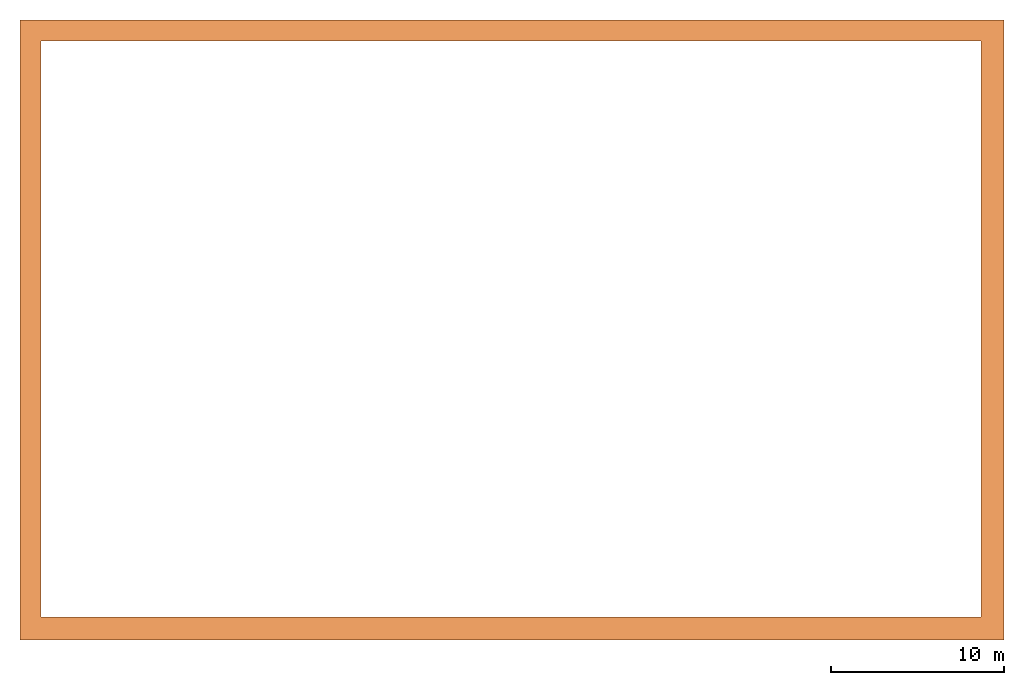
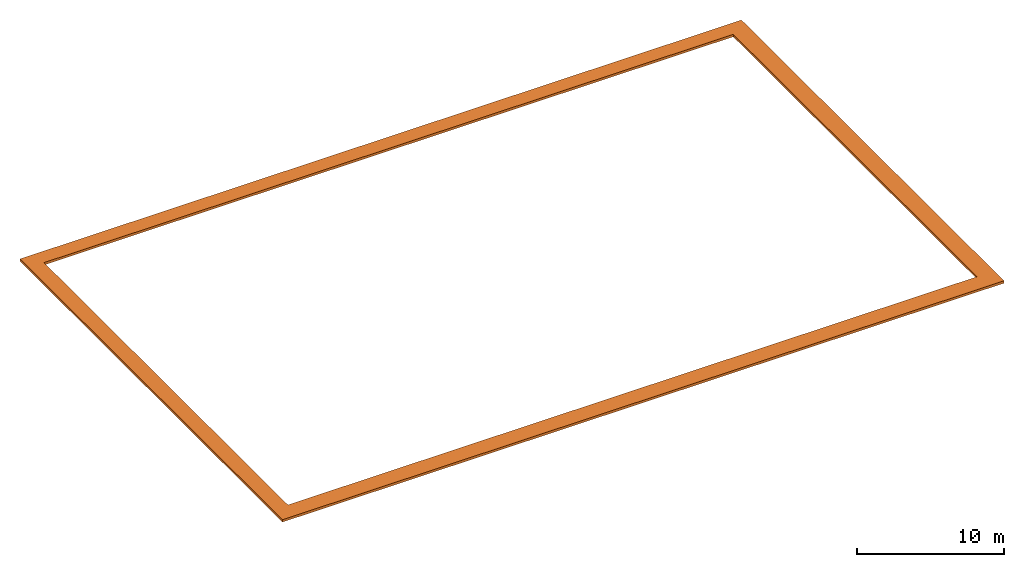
# Not in any storey: 1 proxy.
"""IFC4 model written with IfcOpenShell, lengths in millimetres."""

import ifcopenshell
import ifcopenshell.guid

model = None  # the IFC model being written
_history = None  # IfcOwnerHistory: only IFC2X3 demands one
_inside = {}  # id of a spatial element -> (the spatial element, [elements in it])
_under = {}  # id of a project, library or spatial element -> (it, [spatial elements below it])
_declared = {}  # id of a project -> (the project, [libraries it declares])
_typed = {}  # id of a type object -> (the type object, [elements of that type])
_made_of = {}  # id of a material, layer set ... -> (it, [elements and type objects made of it])


def new_model(schema):
    """Start an empty IFC model of exactly this schema.

    Asked for "IFC4X3", IfcOpenShell would pick the latest addendum, in which some entities
    have other attributes; the version numbers below select the first issue.
    IFC2X3 requires an IfcOwnerHistory on every rooted entity: one is made here for all.
    """
    global model, _history
    if schema == "IFC4X3":
        model = ifcopenshell.file(schema_version=(4, 3, 0, 0))
    else:
        model = ifcopenshell.file(schema=schema)
    _inside.clear()
    _under.clear()
    _declared.clear()
    _typed.clear()
    _made_of.clear()
    _history = None
    if model.schema == "IFC2X3":
        org = make("IfcOrganization", Name="unknown")
        user = make(
            "IfcPersonAndOrganization",
            ThePerson=make("IfcPerson", FamilyName="unknown"),
            TheOrganization=org,
        )
        app = make(
            "IfcApplication",
            ApplicationDeveloper=org,
            Version="unknown",
            ApplicationFullName="unknown",
            ApplicationIdentifier="unknown",
        )
        _history = make(
            "IfcOwnerHistory",
            OwningUser=user,
            OwningApplication=app,
            ChangeAction="ADDED",
            CreationDate=0,
        )
    return model


def make(cls, **values):
    """One entity of the class cls with the attributes given. An attribute that is None is left unset."""
    return model.create_entity(
        cls, **{name: value for name, value in values.items() if value is not None}
    )


def rooted(cls, **values):
    """An entity with a GlobalId (a new one), such as an element, a storey or a relation."""
    return make(cls, GlobalId=ifcopenshell.guid.new(), OwnerHistory=_history, **values)


def si_unit(unit_type, name, prefix=None):
    """IfcSIUnit, for example si_unit("LENGTHUNIT", "METRE", prefix="MILLI")."""
    return make("IfcSIUnit", UnitType=unit_type, Prefix=prefix, Name=name)


def assignment(units):
    """IfcUnitAssignment: the units of a project."""
    return None if units is None else make("IfcUnitAssignment", Units=units)


def point(xyz):
    """IfcCartesianPoint."""
    return None if xyz is None else make("IfcCartesianPoint", Coordinates=xyz)


def direction(xyz):
    """IfcDirection."""
    return None if xyz is None else make("IfcDirection", DirectionRatios=xyz)


def frame(location, z_axis=None, x_axis=None):
    """IfcAxis2Placement3D, a coordinate frame: its origin and axes. An axis left out is left unset."""
    return make(
        "IfcAxis2Placement3D",
        Location=point(location),
        Axis=direction(z_axis),
        RefDirection=direction(x_axis),
    )


def origin():
    """The frame at (0, 0, 0) with its axes left unset."""
    return frame((0.0, 0.0, 0.0))


def place(relative_to, where):
    """IfcLocalPlacement: puts the frame where relative to a parent placement (None: the world)."""
    return make(
        "IfcLocalPlacement", PlacementRelTo=relative_to, RelativePlacement=where
    )


def context(
    kind, dimensions, precision=None, world=None, true_north=None, identifier=None
):
    """IfcGeometricRepresentationContext, for example the 3D "Model" context."""
    return make(
        "IfcGeometricRepresentationContext",
        ContextIdentifier=identifier,
        ContextType=kind,
        CoordinateSpaceDimension=dimensions,
        Precision=precision,
        WorldCoordinateSystem=world,
        TrueNorth=true_north,
    )


def project(units=None, contexts=None):
    """IfcProject with its units and contexts."""
    return rooted(
        "IfcProject",
        Name="project",
        RepresentationContexts=contexts,
        UnitsInContext=assignment(units),
    )


def spatial(cls, under=None, at=None, **own):
    """A site, building, storey or space (cls), placed at a placement, below another one or the project."""
    s = rooted(cls, ObjectPlacement=at, **own)
    if under is not None:
        _under.setdefault(under.id(), (under, []))[1].append(s)
    return s


def point_list(points):
    """IfcCartesianPointList2D or 3D."""
    cls = (
        "IfcCartesianPointList2D" if len(points[0]) == 2 else "IfcCartesianPointList3D"
    )
    return make(cls, CoordList=points)


def triangles(points, corners, closed=None, point_numbers=None):
    """IfcTriangulatedFaceSet: each triangle names its three corners, points numbered from 1."""
    return make(
        "IfcTriangulatedFaceSet",
        Coordinates=point_list(points),
        Closed=closed,
        CoordIndex=corners,
        PnIndex=point_numbers,
    )


def shape(context_of_items, identifier, shape_type, items):
    """IfcShapeRepresentation: the items that make up one representation, for example the "Body"."""
    return make(
        "IfcShapeRepresentation",
        ContextOfItems=context_of_items,
        RepresentationIdentifier=identifier,
        RepresentationType=shape_type,
        Items=items,
    )


def made_of(thing, what):
    """Note that an element or type object is made of a material, layer set ...; save() writes the relation."""
    if what is not None:
        _made_of.setdefault(what.id(), (what, []))[1].append(thing)
    return thing


def element(
    cls,
    number,
    at=None,
    inside=None,
    cuts=None,
    type_object=None,
    material=None,
    context=None,
    identifier="Body",
    shape_type=None,
    held_by="IfcProductDefinitionShape",
    body=None,
    shapes=None,
    **own,
):
    """One element of the class cls, such as IfcWall. Its Tag is "e" and its number.

    at: its placement. inside: the storey or other place that contains it. cuts: it is an
    opening in that element (IfcRelVoidsElement). A single representation is given by context,
    identifier, shape_type and body (its items); several are given by shapes. held_by: the class
    of the entity that holds the representations. save() writes the other relations.
    """
    e = rooted(cls, Tag="e%d" % number, ObjectPlacement=at, **own)
    if body is not None:
        shapes = [shape(context, identifier, shape_type, body)]
    if shapes is not None:
        e.Representation = make(held_by, Representations=shapes)
    if inside is not None:
        _inside.setdefault(inside.id(), (inside, []))[1].append(e)
    if cuts is not None:
        rooted(
            "IfcRelVoidsElement", RelatingBuildingElement=cuts, RelatedOpeningElement=e
        )
    if type_object is not None:
        _typed.setdefault(type_object.id(), (type_object, []))[1].append(e)
    return made_of(e, material)


def aggregate(whole, parts):
    """IfcRelAggregates: a whole, such as a stair, and the parts it consists of."""
    return rooted("IfcRelAggregates", RelatingObject=whole, RelatedObjects=parts)


def save(model, path):
    """Write the relations noted so far, then the file.

    IfcRelAggregates (storeys below a building ...), IfcRelContainedInSpatialStructure (elements
    in a storey), IfcRelDefinesByType, IfcRelAssociatesMaterial and IfcRelDeclares: one each for
    every whole, place, type object, material and project.
    """
    for whole, parts in _under.values():
        aggregate(whole, parts)
    for where, things in _inside.values():
        rooted(
            "IfcRelContainedInSpatialStructure",
            RelatedElements=things,
            RelatingStructure=where,
        )
    for kind, things in _typed.values():
        rooted("IfcRelDefinesByType", RelatedObjects=things, RelatingType=kind)
    for what, things in _made_of.values():
        rooted("IfcRelAssociatesMaterial", RelatedObjects=things, RelatingMaterial=what)
    for by, libraries in _declared.values():
        rooted("IfcRelDeclares", RelatingContext=by, RelatedDefinitions=libraries)
    model.write(path)


model = new_model("IFC4")

# Units and contexts
model_context = context("Model", 3, precision=0.001, world=origin())
ifc_project = project(units=[si_unit("LENGTHUNIT", "METRE", prefix="MILLI"), si_unit("AREAUNIT", "SQUARE_METRE"), si_unit("VOLUMEUNIT", "CUBIC_METRE")], contexts=[model_context])

# Site
site_placement = place(None, origin())
site = spatial("IfcSite", under=ifc_project, at=site_placement, Name="Site", CompositionType="ELEMENT")

# Proxy
proxy_placement = place(site_placement, origin())
element("IfcBuildingElementProxy", 1, at=proxy_placement, inside=site, Name="Site_SiteEdge_001", context=model_context, shape_type="Tessellation", body=[
    triangles([(-2186.05577689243, 34222.9437229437, 0.0), (54580.8764940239, 34222.9437229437, 0.0), (-2186.05577689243, 34222.9437229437, -200.0), (54580.8764940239, 34222.9437229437, -200.0), (-2186.05577689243, -1552.38095238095, 0.0), (-2186.05577689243, -1552.38095238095, -200.0), (54580.8764940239, -1552.38095238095, 0.0), (54580.8764940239, -1552.38095238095, -200.0), (53241.0358565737, 33023.3766233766, 0.0), (-987.250996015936, 33023.3766233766, 0.0), (-987.250996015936, 33023.3766233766, -200.0), (53241.0358565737, 33023.3766233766, -200.0), (53241.0358565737, -211.688311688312, 0.0), (53241.0358565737, -211.688311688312, -200.0), (-987.250996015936, -211.688311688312, 0.0), (-987.250996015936, -211.688311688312, -200.0)], [[1, 2, 3], [3, 2, 4], [5, 1, 6], [6, 1, 3], [2, 7, 4], [4, 7, 8], [7, 5, 8], [8, 5, 6], [9, 10, 11], [9, 11, 12], [13, 9, 12], [13, 12, 14], [15, 13, 14], [15, 14, 16], [10, 15, 16], [10, 16, 11], [7, 2, 13], [2, 9, 13], [13, 5, 7], [13, 15, 5], [10, 1, 15], [15, 1, 5], [2, 1, 9], [9, 1, 10], [4, 8, 14], [12, 4, 14], [6, 14, 8], [16, 14, 6], [3, 11, 16], [3, 16, 6], [3, 4, 12], [3, 12, 11]], closed=True),
])

save(model, "model.ifc")
